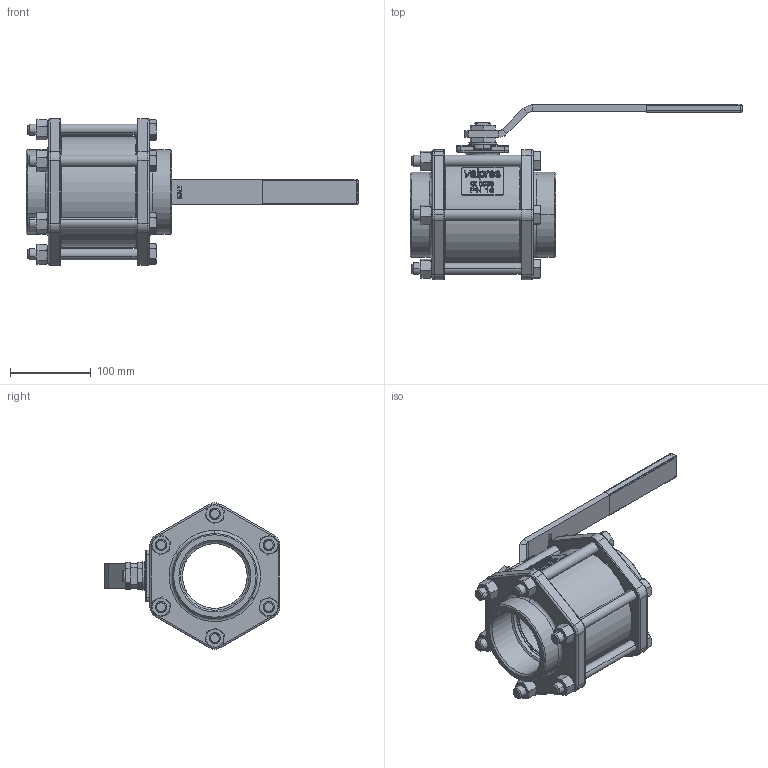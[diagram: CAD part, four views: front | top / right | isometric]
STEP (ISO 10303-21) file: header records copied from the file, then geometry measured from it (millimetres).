
FILE_DESCRIPTION (( 'STEP AP203' ), '1' );
FILE_NAME ('71000014.STEP', '2008-11-14T08:37:51', ( '.' ), ( '.' ), 'SwSTEP 2.0', 'SolidWorks 2007', '' );
FILE_SCHEMA (( 'CONFIG_CONTROL_DESIGN' ));
Length unit declared in the file: millimetre
Products named in the file (1): 71000014
Bounding box: 411.1 x 217.6 x 181.73 mm (x, y, z)
Volume: 1924764.1 mm3; surface area: 290946.8 mm2
Topology: 8 solids, 8 shells, 4134 faces, 11675 edges, 7618 vertices
Faces by surface type: plane 1764, cone 1731, cylinder 336, bspline 298, sphere 5
Entity records: 153672 total; most frequent: CARTESIAN_POINT 51670, ORIENTED_EDGE 23330, DIRECTION 19290, EDGE_CURVE 11665, VERTEX_POINT 7617, AXIS2_PLACEMENT_3D 7562, EDGE_LOOP 4258, VECTOR 4166
